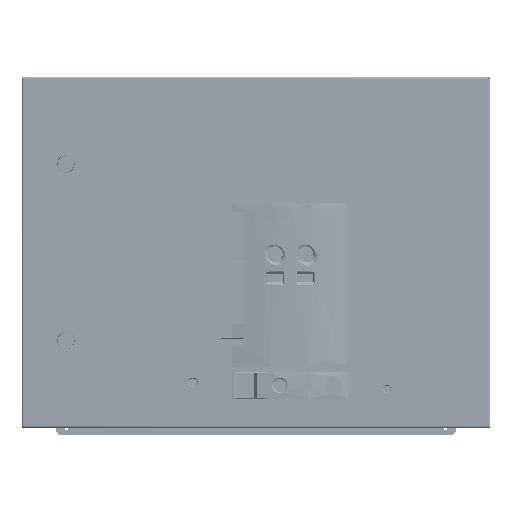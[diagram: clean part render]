
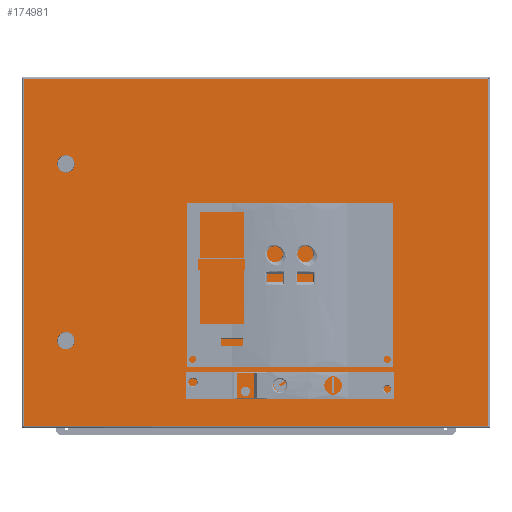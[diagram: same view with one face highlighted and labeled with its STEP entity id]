
A CAD part, top view. The second image highlights one B-rep face of the part: STEP entity #174981.
In plain terms, the highlighted planar face has unit normal (0, 0, 1).
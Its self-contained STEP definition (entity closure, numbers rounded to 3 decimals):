
#168866=CARTESIAN_POINT(' ',(394.1,544.7,26.9));
#168867=VERTEX_POINT(' ',#168866);
#169601=CARTESIAN_POINT(' ',(394.1,-44.7,26.9));
#169602=VERTEX_POINT(' ',#169601);
#170566=CARTESIAN_POINT(' ',(394.1,544.7,26.9));
#170571=DIRECTION(' ',(0.,-1.,0.));
#170576=VECTOR(' ',#170571,1.);
#170581=LINE('',#170566,#170576);
#170586=EDGE_CURVE(' ',#168867,#169602,#170581,.T.);
#172866=CARTESIAN_POINT(' ',(-394.3,-44.7,26.9));
#172867=VERTEX_POINT(' ',#172866);
#173481=CARTESIAN_POINT(' ',(-394.3,544.7,26.9));
#173482=VERTEX_POINT(' ',#173481);
#174851=DIRECTION(' ',(-0.,-0.,1.));
#174856=CARTESIAN_POINT(' ',(394.1,-44.7,26.9));
#174861=DIRECTION(' ',(0.,1.,0.));
#174866=AXIS2_PLACEMENT_3D(' ',#174856,#174851,#174861);
#174871=PLANE('NONE',#174866);
#174876=CARTESIAN_POINT(' ',(-394.3,-44.7,26.9));
#174881=DIRECTION(' ',(1.,0.,0.));
#174886=VECTOR(' ',#174881,1.);
#174891=LINE('',#174876,#174886);
#174896=EDGE_CURVE(' ',#172867,#169602,#174891,.T.);
#174901=ORIENTED_EDGE(' ',*,*,#174896,.T.);
#174906=ORIENTED_EDGE(' ',*,*,#170586,.F.);
#174911=CARTESIAN_POINT(' ',(394.1,544.7,26.9));
#174916=DIRECTION(' ',(-1.,0.,0.));
#174921=VECTOR(' ',#174916,1.);
#174926=LINE('',#174911,#174921);
#174931=EDGE_CURVE(' ',#168867,#173482,#174926,.T.);
#174936=ORIENTED_EDGE(' ',*,*,#174931,.T.);
#174941=CARTESIAN_POINT(' ',(-394.3,544.7,26.9));
#174946=DIRECTION(' ',(0.,-1.,0.));
#174951=VECTOR(' ',#174946,1.);
#174956=LINE('',#174941,#174951);
#174961=EDGE_CURVE(' ',#173482,#172867,#174956,.T.);
#174966=ORIENTED_EDGE(' ',*,*,#174961,.T.);
#174971=EDGE_LOOP(' ',(#174901,#174906,#174936,#174966));
#174976=FACE_OUTER_BOUND(' ',#174971,.T.);
#174981=ADVANCED_FACE('NONE',(#174976),#174871,.T.);
